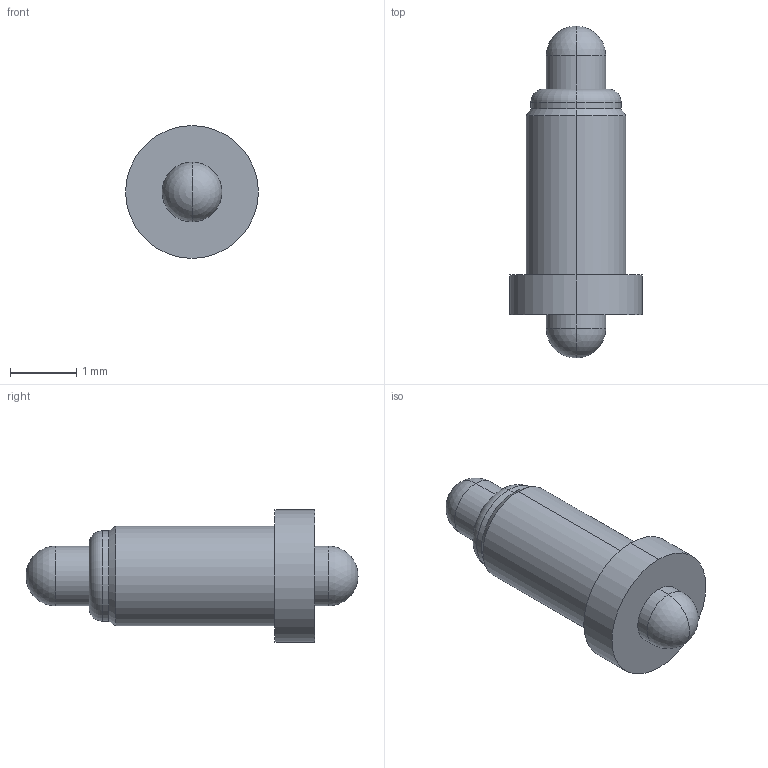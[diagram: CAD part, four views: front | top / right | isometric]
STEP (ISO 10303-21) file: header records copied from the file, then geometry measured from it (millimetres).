
FILE_DESCRIPTION((''),'2;1');
FILE_NAME('PRT0023','2023-05-31T15:27:46',('USER'),(''),'CREO PARAMETRIC BY PTC INC, 2020154','CREO PARAMETRIC BY PTC INC, 2020154','');
FILE_SCHEMA(('CONFIG_CONTROL_DESIGN'));
Length unit declared in the file: millimetre
Products named in the file (1): PRT0023
Bounding box: 2 x 5 x 2 mm (x, y, z)
Volume: 7.5 mm3; surface area: 25.7 mm2
Topology: 1 solids, 1 shells, 21 faces, 44 edges, 24 vertices
Faces by surface type: cylinder 10, sphere 4, plane 3, torus 2, cone 2
Entity records: 576 total; most frequent: DIRECTION 110, CARTESIAN_POINT 85, ORIENTED_EDGE 80, AXIS2_PLACEMENT_3D 49, EDGE_CURVE 40, CIRCLE 28, VERTEX_POINT 24, EDGE_LOOP 24
